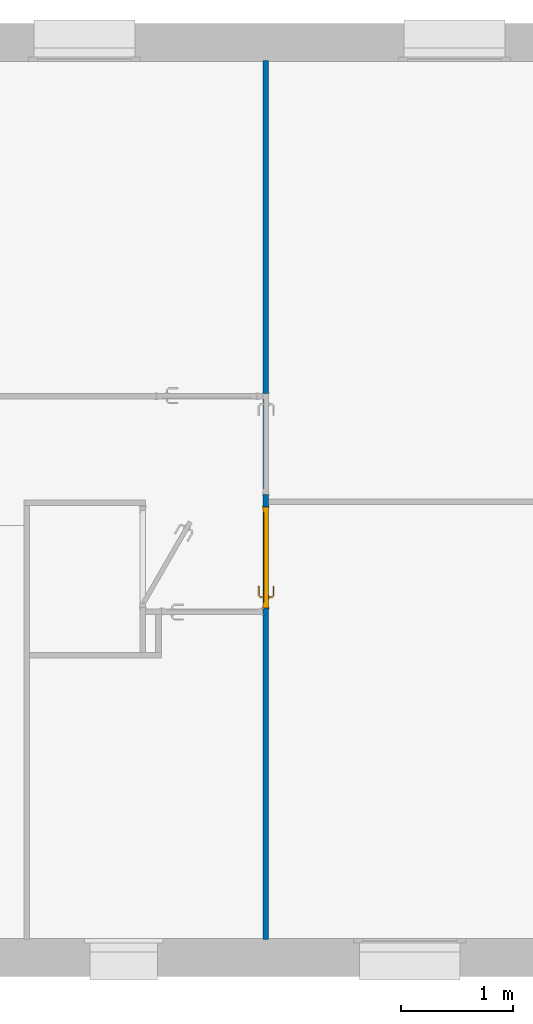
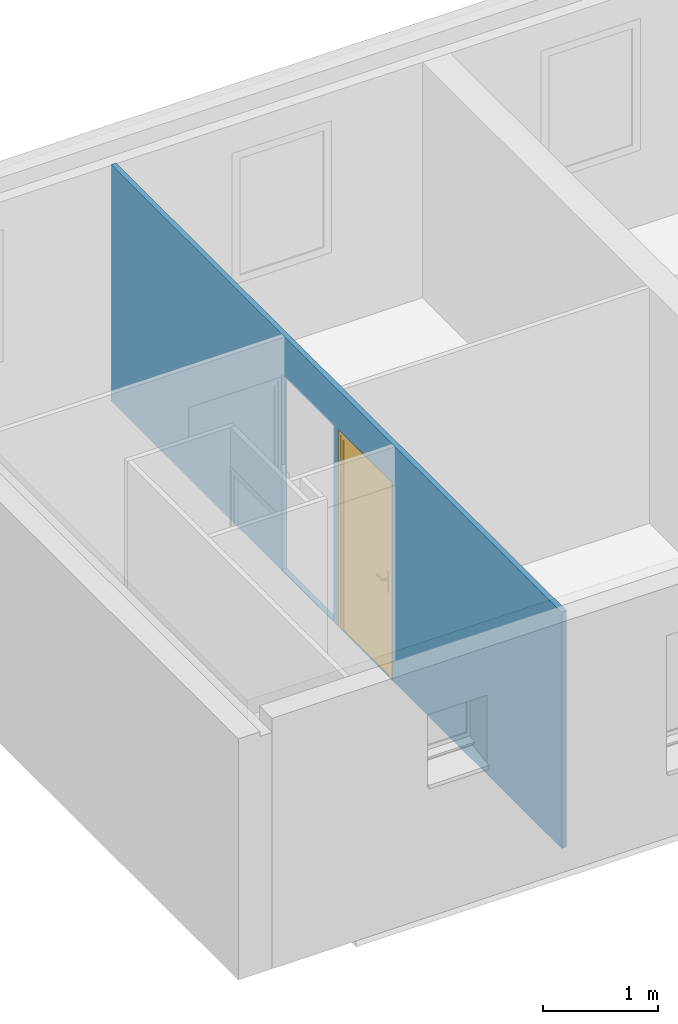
# One storey, part 5 of 13: 1 door, 1 wall, 3 openings.
"""IFC2X3 building model written with IfcOpenShell, lengths in metres."""

from ifc_helpers import new_model, entity, si_unit, converted_unit, derived_unit, direction, frame, frame_2d, origin, place, context, subcontext, project, spatial, rectangle, extrude, faceted_brep, source, transform, mapped, material, material_list, layer, layer_set, layer_usage, type_object, type_shapes, element, fill, save


model = new_model("IFC2X3")

# Units and contexts
model_context = context("Model", 3, precision=1e-05, world=origin(), true_north=direction((6.12303176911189e-17, 1.0)))
body_context = subcontext(model_context, "Body", "Model", "MODEL_VIEW")
ifc_project = project(units=[si_unit("LENGTHUNIT", "METRE"), si_unit("AREAUNIT", "SQUARE_METRE"), si_unit("VOLUMEUNIT", "CUBIC_METRE"), converted_unit("PLANEANGLEUNIT", "DEGREE", entity("IfcRatioMeasure", 0.0174532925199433), si_unit("PLANEANGLEUNIT", "RADIAN"), dimensions=[0, 0, 0, 0, 0, 0, 0]), si_unit("MASSUNIT", "GRAM", prefix="KILO"), si_unit("TIMEUNIT", "SECOND"), si_unit("FREQUENCYUNIT", "HERTZ"), si_unit("THERMODYNAMICTEMPERATUREUNIT", "DEGREE_CELSIUS"), derived_unit("THERMALTRANSMITTANCEUNIT", [(si_unit("MASSUNIT", "GRAM", prefix="KILO"), 1), (si_unit("THERMODYNAMICTEMPERATUREUNIT", "KELVIN"), -1), (si_unit("TIMEUNIT", "SECOND"), -3)]), derived_unit("VOLUMETRICFLOWRATEUNIT", [(si_unit("LENGTHUNIT", "METRE"), 3), (si_unit("TIMEUNIT", "SECOND"), -1)]), si_unit("ELECTRICCURRENTUNIT", "AMPERE"), si_unit("ELECTRICVOLTAGEUNIT", "VOLT"), si_unit("POWERUNIT", "WATT"), si_unit("FORCEUNIT", "NEWTON", prefix="KILO"), si_unit("ILLUMINANCEUNIT", "LUX"), si_unit("LUMINOUSFLUXUNIT", "LUMEN"), si_unit("LUMINOUSINTENSITYUNIT", "CANDELA"), derived_unit("USERDEFINED", [(si_unit("MASSUNIT", "GRAM", prefix="KILO"), -1), (si_unit("LENGTHUNIT", "METRE"), -2), (si_unit("TIMEUNIT", "SECOND"), 3), (si_unit("LUMINOUSFLUXUNIT", "LUMEN"), 1)]), derived_unit("LINEARVELOCITYUNIT", [(si_unit("LENGTHUNIT", "METRE"), 1), (si_unit("TIMEUNIT", "SECOND"), -1)]), si_unit("PRESSUREUNIT", "PASCAL"), derived_unit("USERDEFINED", [(si_unit("LENGTHUNIT", "METRE"), -2), (si_unit("MASSUNIT", "GRAM", prefix="KILO"), 1), (si_unit("TIMEUNIT", "SECOND"), -2)])], contexts=[model_context])

# Site, building, storey
site_placement = place(None, origin())
site = spatial("IfcSite", under=ifc_project, at=site_placement, Name="Surface", CompositionType="ELEMENT")
building_placement = place(site_placement, origin())
building = spatial("IfcBuilding", under=site, at=building_placement, CompositionType="ELEMENT")
storey_placement = place(building_placement, frame((0.0, 0.0, 2.74)))
storey = spatial("IfcBuildingStorey", under=building, at=storey_placement, Name="Plan étage", CompositionType="ELEMENT", Elevation=2.74)

# Wall, openings, door
ifc_material_1 = material(Name="Maçonnerie - Isolant(1)")
ifc_layer = layer(ifc_material_1, 0.05)
ifc_layer_set = layer_set([ifc_layer], Name="Mur de base:Int. plâtre 50 mm")
ifc_layer_usage = layer_usage(ifc_layer_set, "AXIS2", "NEGATIVE", 0.025)
wall_type = type_object("IfcWallType", Name="Mur de base:Int. plâtre 50 mm", PredefinedType="STANDARD", material=ifc_layer_set)
wall_placement = place(storey_placement, frame((-8.17108881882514, -2.48574421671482, -0.00999999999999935), z_axis=(0.0, 0.0, 1.0), x_axis=(0.0, 1.0, 0.0)))
wall = element("IfcWallStandardCase", 1, at=wall_placement, inside=storey, type_object=wall_type, material=ifc_layer_usage, Name="Mur de base:Int. plâtre 50 mm", ObjectType="Mur de base:Int. plâtre 50 mm", context=body_context, shape_type="SweptSolid", body=[
    extrude(rectangle(XDim=7.84000000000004, YDim=0.0499999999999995, at=frame_2d((3.92000000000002, 0.0), x_axis=(-1.0, 0.0))), origin(), (0.0, 0.0, 1.0), 2.51),
])
opening_1_placement = place(wall_placement, origin())
element("IfcOpeningElement", 2, at=opening_1_placement, cuts=wall, Name="Mur de base:Int. plâtre 50 mm", ObjectType="Opening", context=body_context, shape_type="SweptSolid", body=[
    extrude(rectangle(XDim=2.075, YDim=0.05, at=frame_2d((0.0, 3.33066907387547e-16), x_axis=(0.0, 1.0))), frame((2.92500000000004, 0.0274999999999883, 1.0475), z_axis=(0.0, 1.0, 0.0), x_axis=(1.0, 0.0, 0.0)), (0.0, 0.0, 1.0), 0.9),
])
opening_2_placement = place(wall_placement, frame((3.85750000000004, 0.025, 0.00999999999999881)))
opening_2 = element("IfcOpeningElement", 3, at=opening_2_placement, cuts=wall, Name="Int. Simple:PP (0.83m x 2.04m):1", ObjectType="Opening", context=body_context, shape_type="SweptSolid", body=[
    extrude(rectangle(XDim=2.075, YDim=0.9, at=frame_2d((1.0375, 0.45), x_axis=(1.0, 0.0))), frame((0.0, 0.0, 0.0), z_axis=(0.0, -1.0, 0.0), x_axis=(0.0, 0.0, 1.0)), (0.0, 0.0, 1.0), 0.05),
])
opening_3_placement = place(wall_placement, frame((4.87000000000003, 0.025, 0.00999999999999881)))
element("IfcOpeningElement", 4, at=opening_3_placement, cuts=wall, Name="Int. Simple:PP (0.83m x 2.04m):1", ObjectType="Opening", context=body_context, shape_type="SweptSolid", body=[
    extrude(rectangle(XDim=2.075, YDim=0.9, at=frame_2d((1.0375, 0.45), x_axis=(1.0, 0.0))), frame((0.0, 0.0, 0.0), z_axis=(0.0, -1.0, 0.0), x_axis=(0.0, 0.0, 1.0)), (0.0, 0.0, 1.0), 0.05),
])
ifc_material_2 = material(Name="Finition Peinture - Blanc satiné")
ifc_material_3 = material(Name="Bois - Panneau de porte")
ifc_material_4 = material(Name="Bois - Cadre de porte")
ifc_material_list_1 = material_list([ifc_material_2, ifc_material_3, ifc_material_4])
ifc_material_list_2 = material_list([ifc_material_2, ifc_material_3, ifc_material_4])
door_style = type_object("IfcDoorStyle", Name="PP (0.83m x 2.04m)", ConstructionType="NOTDEFINED", OperationType="SINGLE_SWING_LEFT", ParameterTakesPrecedence=False, Sizeable=False, material=ifc_material_list_2)
shared_shape = source(origin(), body_context, "Body", "Brep", [
    faceted_brep([(0.105352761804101, -0.00500000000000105, 0.866003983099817), (0.115, -0.00500000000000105, 0.870000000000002), (0.114999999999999, -0.00500000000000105, 1.08), (0.1053527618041, -0.00500000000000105, 1.08399601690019), (0.0949999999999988, -0.00500000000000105, 1.08535898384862), (0.0846472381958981, -0.00500000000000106, 1.08399601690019), (0.0749999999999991, -0.00500000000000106, 1.08), (0.0750000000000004, -0.00500000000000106, 0.870000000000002), (0.0846472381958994, -0.00500000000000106, 0.866003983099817), (0.0950000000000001, -0.00500000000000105, 0.86464101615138), (0.1053527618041, 0.0, 1.08399601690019), (0.114999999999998, 0.0, 1.08), (0.115, 0.0, 0.870000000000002), (0.105352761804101, 0.0, 0.866003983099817), (0.0950000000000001, 0.0, 0.86464101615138), (0.0846472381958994, 0.0, 0.866003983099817), (0.0749999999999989, 0.0, 0.870000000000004), (0.0749999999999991, 0.0, 1.08), (0.0846472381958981, 0.0, 1.08399601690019), (0.0949999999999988, 0.0, 1.08535898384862)], [[[0, 1, 2, 3, 4, 5, 6, 7, 8, 9]], [[10, 11, 12, 13, 14, 15, 16, 17, 18, 19]], [[16, 15, 8, 7]], [[8, 15, 14, 9]], [[14, 13, 0, 9]], [[13, 12, 1, 0]], [[2, 1, 12, 11]], [[11, 10, 3, 2]], [[3, 10, 19, 4]], [[19, 18, 5, 4]], [[18, 17, 6, 5]], [[7, 6, 17, 16]]]),
    faceted_brep([(0.105352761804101, 0.0399999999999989, 0.866003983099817), (0.115, 0.0399999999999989, 0.870000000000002), (0.114999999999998, 0.0399999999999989, 1.08), (0.105352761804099, 0.0399999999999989, 1.08399601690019), (0.0949999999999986, 0.0399999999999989, 1.08535898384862), (0.084647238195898, 0.0399999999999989, 1.08399601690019), (0.0749999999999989, 0.0399999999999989, 1.08), (0.0750000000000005, 0.0399999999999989, 0.870000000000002), (0.0846472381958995, 0.0399999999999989, 0.866003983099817), (0.0950000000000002, 0.0399999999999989, 0.86464101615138), (0.105352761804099, 0.0449999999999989, 1.08399601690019), (0.114999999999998, 0.0449999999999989, 1.08), (0.115, 0.0449999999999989, 0.870000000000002), (0.105352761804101, 0.0449999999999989, 0.866003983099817), (0.0950000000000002, 0.0449999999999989, 0.86464101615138), (0.0846472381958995, 0.0449999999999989, 0.866003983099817), (0.0749999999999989, 0.0449999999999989, 0.870000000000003), (0.0749999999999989, 0.0449999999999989, 1.08), (0.084647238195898, 0.0449999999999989, 1.08399601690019), (0.0949999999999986, 0.0449999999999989, 1.08535898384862)], [[[0, 1, 2, 3, 4, 5, 6, 7, 8, 9]], [[10, 11, 12, 13, 14, 15, 16, 17, 18, 19]], [[11, 10, 3, 2]], [[3, 10, 19, 4]], [[19, 18, 5, 4]], [[18, 17, 6, 5]], [[7, 6, 17, 16]], [[16, 15, 8, 7]], [[8, 15, 14, 9]], [[14, 13, 0, 9]], [[13, 12, 1, 0]], [[2, 1, 12, 11]]]),
    faceted_brep([(0.0929747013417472, -0.00500000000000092, 1.00778044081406), (0.0970252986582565, -0.0050000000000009, 1.00778044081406), (0.101000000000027, -0.00500000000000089, 1.00699999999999), (0.101000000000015, -0.00500000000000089, 0.993000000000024), (0.0970252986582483, -0.0050000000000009, 0.992219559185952), (0.0929747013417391, -0.00500000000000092, 0.99221955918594), (0.0889999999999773, -0.00500000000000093, 0.992999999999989), (0.0889999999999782, -0.00500000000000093, 1.007), (0.0889999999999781, -0.0326509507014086, 1.007), (0.092974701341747, -0.0310045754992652, 1.00778044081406), (0.10902358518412, -0.0470534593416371, 1.00778044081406), (0.110701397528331, -0.0430028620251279, 1.00778044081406), (0.0970252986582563, -0.0293267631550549, 1.00778044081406), (0.101000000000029, -0.0276803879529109, 1.007), (0.101000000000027, -0.0276803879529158, 0.993000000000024), (0.0970252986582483, -0.0293267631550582, 0.992219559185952), (0.110701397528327, -0.0430028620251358, 0.992219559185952), (0.109023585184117, -0.047053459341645, 0.99221955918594), (0.0929747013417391, -0.0310045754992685, 0.99221955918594), (0.0889999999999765, -0.0326509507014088, 0.992999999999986), (0.107377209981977, -0.0510281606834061, 1.007), (0.112347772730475, -0.0390281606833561, 1.007), (0.112347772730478, -0.0390281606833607, 0.993000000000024), (0.107377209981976, -0.0510281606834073, 0.992999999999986), (0.195018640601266, -0.0510281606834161, 0.992999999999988), (0.195018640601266, -0.0470534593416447, 0.99221955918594), (0.195018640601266, -0.0430028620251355, 0.992219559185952), (0.195018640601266, -0.039028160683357, 0.993000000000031), (0.195018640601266, -0.0390281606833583, 1.007), (0.195018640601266, -0.0430028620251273, 1.00778044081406), (0.195018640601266, -0.0470534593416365, 1.00778044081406), (0.195018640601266, -0.0510281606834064, 1.00699999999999), (0.147307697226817, -0.0510281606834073, 1.007), (0.152860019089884, -0.045028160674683, 1.0078786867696), (0.15368320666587, -0.039028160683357, 1.007), (0.153683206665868, -0.0390281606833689, 0.993000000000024), (0.152860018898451, -0.0450281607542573, 0.992121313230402), (0.147307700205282, -0.0510281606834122, 0.992999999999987)], [[[0, 1, 2, 3, 4, 5, 6, 7]], [[8, 9, 0, 7]], [[9, 10, 11, 12, 1, 0]], [[12, 13, 2, 1]], [[3, 2, 13, 14]], [[14, 15, 4, 3]], [[15, 16, 17, 18, 5, 4]], [[18, 19, 6, 5]], [[7, 6, 19, 8]], [[20, 10, 9, 8]], [[11, 21, 13, 12]], [[14, 13, 21, 22]], [[22, 16, 15, 14]], [[17, 23, 19, 18]], [[8, 19, 23, 20]], [[24, 25, 26, 27, 28, 29, 30, 31]], [[32, 30, 33]], [[31, 30, 32]], [[10, 20, 32]], [[33, 34, 11]], [[21, 11, 34]], [[34, 29, 28]], [[30, 29, 33]], [[29, 34, 33]], [[10, 32, 33]], [[10, 33, 11]], [[22, 21, 34, 28, 27, 35]], [[35, 26, 36]], [[37, 36, 25]], [[22, 35, 16]], [[35, 27, 26]], [[24, 37, 25]], [[23, 17, 37]], [[37, 17, 36]], [[17, 16, 36]], [[16, 35, 36]], [[25, 36, 26]], [[20, 23, 37, 24, 31, 32]]]),
    faceted_brep([(0.0929747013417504, 0.0449999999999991, 1.00778044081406), (0.0889999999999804, 0.044999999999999, 1.007), (0.0889999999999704, 0.044999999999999, 0.992999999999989), (0.0929747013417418, 0.0449999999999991, 0.99221955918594), (0.0970252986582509, 0.0449999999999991, 0.992219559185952), (0.10100000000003, 0.0449999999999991, 0.993000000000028), (0.101000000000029, 0.0449999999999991, 1.007), (0.0970252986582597, 0.0449999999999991, 1.00778044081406), (0.10100000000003, 0.067485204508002, 0.993000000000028), (0.10100000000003, 0.0674852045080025, 1.007), (0.0970252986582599, 0.0691315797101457, 1.00778044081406), (0.110838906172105, 0.0829451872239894, 1.00778044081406), (0.109161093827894, 0.0869957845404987, 1.00778044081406), (0.0929747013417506, 0.070809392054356, 1.00778044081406), (0.0889999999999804, 0.0724557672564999, 1.007), (0.0889999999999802, 0.072455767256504, 0.992999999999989), (0.0929747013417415, 0.0708093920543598, 0.99221955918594), (0.109161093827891, 0.0869957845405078, 0.99221955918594), (0.110838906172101, 0.0829451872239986, 0.992219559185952), (0.0970252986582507, 0.0691315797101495, 0.992219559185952), (0.112485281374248, 0.0789704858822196, 0.993000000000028), (0.112485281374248, 0.0789704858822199, 1.007), (0.107514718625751, 0.0909704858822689, 1.007), (0.107514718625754, 0.090970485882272, 0.992999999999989), (0.195045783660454, 0.0789704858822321, 0.993000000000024), (0.195045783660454, 0.0829451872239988, 0.992219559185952), (0.195045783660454, 0.086995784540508, 0.99221955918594), (0.195045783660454, 0.0909704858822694, 0.992999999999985), (0.195045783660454, 0.0909704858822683, 1.007), (0.195045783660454, 0.0869957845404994, 1.00778044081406), (0.195045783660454, 0.0829451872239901, 1.00778044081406), (0.195045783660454, 0.0789704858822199, 1.007), (0.153765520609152, 0.0789704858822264, 0.993000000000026), (0.153765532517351, 0.0789704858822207, 1.007), (0.152942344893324, 0.0849704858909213, 1.0078786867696), (0.147445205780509, 0.0909704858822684, 1.007), (0.147445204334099, 0.0909704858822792, 0.992999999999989), (0.152942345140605, 0.0849704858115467, 0.992121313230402)], [[[0, 1, 2, 3, 4, 5, 6, 7]], [[6, 5, 8, 9]], [[9, 10, 7, 6]], [[10, 11, 12, 13, 0, 7]], [[13, 14, 1, 0]], [[2, 1, 14, 15]], [[15, 16, 3, 2]], [[16, 17, 18, 19, 4, 3]], [[19, 8, 5, 4]], [[9, 8, 20, 21]], [[21, 11, 10, 9]], [[12, 22, 14, 13]], [[15, 14, 22, 23]], [[23, 17, 16, 15]], [[18, 20, 8, 19]], [[24, 25, 26, 27, 28, 29, 30, 31]], [[21, 20, 32, 24, 31, 33]], [[33, 30, 34]], [[35, 34, 29]], [[21, 33, 11]], [[33, 31, 30]], [[28, 35, 29]], [[22, 12, 35]], [[35, 12, 34]], [[12, 11, 34]], [[11, 33, 34]], [[29, 34, 30]], [[22, 35, 28, 27, 36, 23]], [[36, 26, 37]], [[27, 26, 36]], [[17, 23, 36]], [[37, 32, 18]], [[20, 18, 32]], [[32, 25, 24]], [[26, 25, 37]], [[25, 32, 37]], [[17, 36, 37]], [[17, 37, 18]]]),
    faceted_brep([(0.034999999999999, 0.04, 2.04), (0.865, 0.04, 2.04), (0.864999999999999, 0.04, 0.0), (0.034999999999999, 0.04, 0.0), (0.034999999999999, 0.0, 2.04), (0.034999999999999, 0.0, 0.0), (0.864999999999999, 0.0, 0.0), (0.865, 0.0, 2.04)], [[[0, 1, 2, 3]], [[4, 5, 6, 7]], [[1, 0, 4, 7]], [[2, 1, 7, 6]], [[3, 2, 6, 5]], [[0, 3, 5, 4]]]),
    faceted_brep([(0.0, 0.0, 0.0), (0.0, 0.050000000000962, 0.0), (0.0499999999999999, 0.050000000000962, 0.0), (0.0499999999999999, 0.040000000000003, 0.0), (0.0349999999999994, 0.040000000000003, 0.0), (0.0349999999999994, 0.0, 0.0), (0.0, 0.0, 2.07500000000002), (0.0, 0.050000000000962, 2.07500000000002), (0.900000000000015, 0.050000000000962, 2.07500000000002), (0.900000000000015, 0.050000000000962, 0.0), (0.85, 0.050000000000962, 0.0), (0.85, 0.050000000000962, 2.025), (0.0500000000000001, 0.050000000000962, 2.025), (0.05, 0.040000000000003, 2.025), (0.85, 0.040000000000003, 2.025), (0.85, 0.040000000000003, 0.0), (0.865, 0.040000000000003, 0.0), (0.865, 0.040000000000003, 2.04), (0.0349999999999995, 0.040000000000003, 2.04), (0.0349999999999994, 0.0, 2.04), (0.865, 0.0, 2.04), (0.865, 0.0, 0.0), (0.900000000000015, 0.0, 0.0), (0.900000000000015, 0.0, 2.07500000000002)], [[[0, 1, 2, 3, 4, 5]], [[1, 0, 6, 7]], [[2, 1, 7, 8, 9, 10, 11, 12]], [[3, 2, 12, 13]], [[4, 3, 13, 14, 15, 16, 17, 18]], [[5, 4, 18, 19]], [[0, 5, 19, 20, 21, 22, 23, 6]], [[8, 23, 22, 9]], [[22, 21, 16, 15, 10, 9]], [[14, 11, 10, 15]], [[20, 17, 16, 21]], [[7, 6, 23, 8]], [[13, 12, 11, 14]], [[19, 18, 17, 20]]]),
    faceted_brep([(0.0149999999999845, 0.050000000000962, 0.0), (-0.0150000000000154, 0.050000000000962, 0.0), (-0.0150000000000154, 0.055000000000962, 0.0), (0.0149999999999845, 0.055000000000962, 0.0), (0.0149999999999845, 0.050000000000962, 2.06000000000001), (0.884999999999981, 0.050000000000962, 2.06000000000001), (0.88499999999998, 0.050000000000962, 0.0), (0.91499999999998, 0.050000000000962, 0.0), (0.91499999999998, 0.050000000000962, 2.09000000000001), (-0.0150000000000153, 0.050000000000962, 2.09000000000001), (-0.0150000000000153, 0.055000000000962, 2.09000000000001), (0.91499999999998, 0.055000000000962, 2.09000000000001), (0.91499999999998, 0.055000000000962, 0.0), (0.88499999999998, 0.055000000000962, 0.0), (0.88499999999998, 0.055000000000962, 2.06000000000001), (0.0149999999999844, 0.055000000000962, 2.06000000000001)], [[[0, 1, 2, 3]], [[1, 0, 4, 5, 6, 7, 8, 9]], [[2, 1, 9, 10]], [[3, 2, 10, 11, 12, 13, 14, 15]], [[0, 3, 15, 4]], [[6, 13, 12, 7]], [[5, 14, 13, 6]], [[11, 8, 7, 12]], [[10, 9, 8, 11]], [[4, 15, 14, 5]]]),
    faceted_brep([(-0.0150000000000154, -0.005, 0.0), (0.0149999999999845, -0.005, 0.0), (0.0149999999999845, -0.005, 2.06000000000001), (0.884999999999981, -0.005, 2.06000000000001), (0.88499999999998, -0.005, 0.0), (0.91499999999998, -0.005, 0.0), (0.91499999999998, -0.005, 2.09000000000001), (-0.0150000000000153, -0.005, 2.09000000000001), (-0.0150000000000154, 0.0, 0.0), (-0.0150000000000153, 0.0, 2.09000000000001), (0.0149999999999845, 0.0, 0.0), (0.91499999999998, 0.0, 2.09000000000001), (0.91499999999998, 0.0, 0.0), (0.88499999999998, 0.0, 0.0), (0.88499999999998, 0.0, 2.06000000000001), (0.0149999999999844, 0.0, 2.06000000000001)], [[[0, 1, 2, 3, 4, 5, 6, 7]], [[8, 0, 7, 9]], [[10, 8, 9, 11, 12, 13, 14, 15]], [[1, 10, 15, 2]], [[3, 14, 13, 4]], [[11, 6, 5, 12]], [[9, 7, 6, 11]], [[2, 15, 14, 3]], [[4, 13, 12, 5]], [[1, 0, 8, 10]]]),
])
type_shapes(door_style, [shared_shape])
door_placement = place(opening_2_placement, frame((-0.9, -0.0500000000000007, 0.0)))
door = element("IfcDoor", 5, at=door_placement, inside=storey, type_object=door_style, material=ifc_material_list_1, Name="Int. Simple:PP (0.83m x 2.04m)", ObjectType="PP (0.83m x 2.04m)", OverallHeight=2.075, OverallWidth=0.9, context=body_context, shape_type="MappedRepresentation", body=[
    mapped(shared_shape, transform((0.0, 0.0, 0.0), scale=1.0)),
])
fill(opening_2, door)

save(model, "model.ifc")
